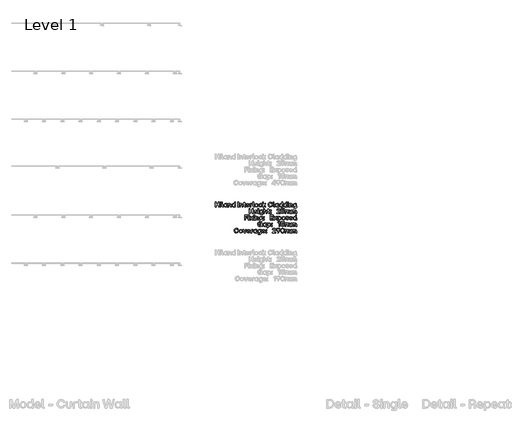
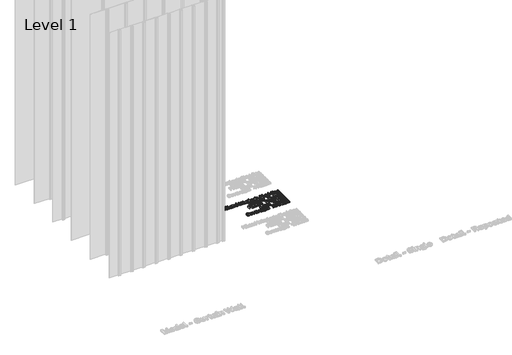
# One storey, part 54 of 64: 1 proxy.
"""IFC4 building model written with IfcOpenShell, lengths in millimetres."""

from ifc_helpers import new_model, si_unit, origin, origin_with_axes, place, context, project, spatial, polyline, outline, extrude, element, save

model = new_model("IFC4")

# Units and contexts
model_context = context("Model", 3, world=origin())
ifc_project = project(units=[si_unit("LENGTHUNIT", "METRE", prefix="MILLI")], contexts=[model_context])

# Site, building, storey
site = spatial("IfcSite", under=ifc_project)
building = spatial("IfcBuilding", under=site)
storey = spatial("IfcBuildingStorey", under=building, Name="Level 1", Elevation=0.0)

# Proxy
placement = place(None, origin())
element("IfcBuildingElementProxy", 1, Name="50mm", ObjectType="50mm", at=placement, inside=storey, context=model_context, shape_type="SweptSolid", body=[
    extrude(outline(polyline([(2183.5639115, 596.9748178), (2182.8665797, 618.9128767), (2159.0178316, 618.9128767), (2159.0178316, 597.6721497), (2151.5145413, 596.9748178), (2150.7893162, 646.2482839), (2158.2786599, 646.973509), (2159.0178316, 625.8861949), (2182.8665797, 625.8861949), (2182.8665797, 646.2482839), (2190.3559234, 646.973509), (2191.0532552, 597.6721497), (2183.5639115, 596.9748178)])), origin_with_axes(), (0.0, 0.0, 1.0), 20.0),
    extrude(outline(polyline([(2201.1506198, 596.9748178), (2200.4253948, 632.6782068), (2207.6358057, 633.3755386), (2208.3331375, 597.6721497), (2201.1506198, 596.9748178)])), origin_with_axes(), (0.0, 0.0, 1.0), 20.0),
    extrude(outline(polyline([(2200.2161952, 640.0420307), (2199.8675293, 648.0892399), (2208.2634043, 648.8284116), (2209.0025761, 640.3906966), (2200.2161952, 640.0420307)])), origin_with_axes(), (0.0, 0.0, 1.0), 20.0),
    extrude(outline(polyline([(2227.7329086, 596.9748178), (2220.0343654, 599.6246787), (2217.3845045, 607.3371686), (2217.3845045, 647.6708408), (2224.5949154, 648.4100125), (2225.2922473, 603.2508042), (2231.9587394, 603.2508042), (2232.6560712, 597.6721497), (2227.7329086, 596.9748178)])), origin_with_axes(), (0.0, 0.0, 1.0), 20.0),
    extrude(outline(polyline([(2252.8229073, 596.5564188), (2241.0519463, 601.5981278), (2236.6727025, 615.105445), (2241.0519463, 628.7452553), (2252.8229073, 633.8357776), (2259.4405862, 632.2319144), (2264.4265087, 627.838724), (2264.7472813, 632.6782068), (2271.929799, 633.3755386), (2272.6550241, 603.2508042), (2276.6019222, 603.2508042), (2277.299254, 597.6721497), (2271.3022004, 596.9748178), (2266.6475105, 598.282315), (2265.0959472, 602.2048065), (2259.7404389, 598.1602819), (2252.8229073, 596.5564188)]), holes=[polyline([(2244.7338583, 615.105445), (2247.4883189, 606.2144644), (2255.0125292, 602.9718715), (2262.3763532, 606.2005178), (2265.0262141, 615.105445), (2262.3554332, 624.1010254), (2255.0125292, 627.378485), (2247.4883189, 624.1010254), (2244.7338583, 615.105445)])]), origin_with_axes(), (0.0, 0.0, 1.0), 20.0),
    extrude(outline(polyline([(2284.160999, 596.9748178), (2283.435774, 632.6782068), (2290.297519, 633.3755386), (2290.9948508, 627.838724), (2296.1585929, 632.3365142), (2302.7797585, 633.8357776), (2312.3401777, 629.6517867), (2315.6525038, 617.40664), (2315.6525038, 597.6721497), (2308.4281462, 596.9748178), (2307.7029211, 617.40664), (2305.750392, 624.7844106), (2299.5790055, 627.0995522), (2293.3518324, 624.749544), (2291.3435167, 617.40664), (2291.3435167, 597.6721497), (2284.160999, 596.9748178)])), origin_with_axes(), (0.0, 0.0, 1.0), 20.0),
    extrude(outline(polyline([(2338.5110407, 596.5564188), (2326.7400796, 601.5981278), (2322.3608359, 615.105445), (2326.7400796, 628.7452553), (2338.5110407, 633.8357776), (2345.1287196, 632.2319144), (2350.1146421, 627.838724), (2350.4354147, 647.6708408), (2357.6179324, 648.4100125), (2358.3431575, 597.6721497), (2351.4814124, 596.9748178), (2350.7840806, 602.4837392), (2345.4285723, 598.1602819), (2338.5110407, 596.5564188)]), holes=[polyline([(2330.4219916, 615.105445), (2333.1764523, 606.2144644), (2340.7006626, 602.9718715), (2348.0644865, 606.2005178), (2350.7143474, 615.105445), (2348.0435666, 624.1010254), (2340.7006626, 627.378485), (2333.1764523, 624.1010254), (2330.4219916, 615.105445)])]), origin_with_axes(), (0.0, 0.0, 1.0), 20.0),
    extrude(outline(polyline([(2385.7204045, 596.9748178), (2385.0230727, 646.2482839), (2392.526363, 646.973509), (2393.2236949, 597.6721497), (2385.7204045, 596.9748178)])), origin_with_axes(), (0.0, 0.0, 1.0), 20.0),
    extrude(outline(polyline([(2403.7673519, 596.9748178), (2403.0421268, 632.6782068), (2409.9038719, 633.3755386), (2410.6012037, 627.838724), (2415.7649458, 632.3365142), (2422.3861113, 633.8357776), (2431.9465305, 629.6517867), (2435.2588566, 617.40664), (2435.2588566, 597.6721497), (2428.034499, 596.9748178), (2427.3092739, 617.40664), (2425.3567449, 624.7844106), (2419.1853583, 627.0995522), (2412.9581852, 624.749544), (2410.9498696, 617.40664), (2410.9498696, 597.6721497), (2403.7673519, 596.9748178)])), origin_with_axes(), (0.0, 0.0, 1.0), 20.0),
    extrude(outline(polyline([(2458.5357926, 596.9748178), (2450.8233027, 599.6246787), (2448.1734418, 607.3371686), (2448.1734418, 627.0995522), (2441.9671887, 627.0995522), (2441.2419636, 632.6782068), (2448.1734418, 633.3755386), (2448.1734418, 643.3892234), (2455.3977994, 644.1144485), (2456.0951313, 633.3755386), (2464.8815121, 633.3755386), (2465.6067372, 627.838724), (2456.0951313, 627.0995522), (2456.0951313, 603.2508042), (2464.8815121, 603.2508042), (2465.6067372, 597.6721497), (2458.5357926, 596.9748178)])), origin_with_axes(), (0.0, 0.0, 1.0), 20.0),
    extrude(outline(polyline([(2488.9394597, 596.5564188), (2475.5367422, 601.5981278), (2470.5298998, 615.105445), (2475.5158223, 628.759202), (2488.9394597, 633.8357776), (2501.219473, 628.8289351), (2505.7172632, 615.1751782), (2505.7172632, 613.264489), (2478.6607888, 612.5253173), (2481.7290488, 605.482266), (2488.9394597, 602.9718715), (2494.7273138, 604.2479887), (2497.7258406, 607.8253009), (2504.8107318, 608.4110596), (2500.1525553, 599.6455987), (2488.9394597, 596.5564188)]), holes=[polyline([(2478.730522, 618.3131714), (2497.9350401, 618.3131714), (2495.2921526, 624.9587436), (2488.9394597, 627.378485), (2481.8475952, 625.07729), (2478.730522, 618.3131714)])]), origin_with_axes(), (0.0, 0.0, 1.0), 20.0),
    extrude(outline(polyline([(2513.1787136, 596.9748178), (2512.4813818, 623.0550277), (2515.1312427, 630.7465976), (2522.8297859, 633.3755386), (2532.9829371, 633.3755386), (2533.6802689, 627.378485), (2520.3891246, 626.6811531), (2520.3891246, 597.6721497), (2513.1787136, 596.9748178)])), origin_with_axes(), (0.0, 0.0, 1.0), 20.0),
    extrude(outline(polyline([(2550.8485782, 596.9748178), (2543.150035, 599.6246787), (2540.5001741, 607.3371686), (2540.5001741, 647.6708408), (2547.7105851, 648.4100125), (2548.4079169, 603.2508042), (2555.074409, 603.2508042), (2555.7717408, 597.6721497), (2550.8485782, 596.9748178)])), origin_with_axes(), (0.0, 0.0, 1.0), 20.0),
    extrude(outline(polyline([(2577.9887324, 596.5564188), (2564.8300811, 601.6818076), (2559.7883721, 615.105445), (2564.8440277, 628.6406555), (2577.9887324, 633.8357776), (2591.2589569, 628.6406555), (2596.3285592, 615.105445), (2591.2589569, 601.6818076), (2577.9887324, 596.5564188)]), holes=[polyline([(2567.8495279, 615.105445), (2570.548202, 606.2005178), (2577.9887324, 602.9718715), (2585.5268894, 606.2144644), (2588.28135, 615.105445), (2585.540836, 624.1010254), (2577.9887324, 627.378485), (2570.548202, 624.1010254), (2567.8495279, 615.105445)])]), origin_with_axes(), (0.0, 0.0, 1.0), 20.0),
    extrude(outline(polyline([(2620.0796808, 596.5564188), (2606.7466965, 601.5981278), (2601.7398541, 615.105445), (2606.8164297, 628.6406555), (2620.0796808, 633.8357776), (2631.15331, 630.3979317), (2636.369352, 621.3116982), (2629.3541939, 620.5446332), (2625.783855, 625.844355), (2620.0796808, 627.378485), (2612.5206039, 624.1010254), (2609.8010098, 615.105445), (2612.5345505, 606.1795978), (2620.0796808, 602.9718715), (2625.958188, 604.4362683), (2628.9357948, 609.1781246), (2636.0206861, 609.8475631), (2631.3625095, 599.9942646), (2620.0796808, 596.5564188)])), origin_with_axes(), (0.0, 0.0, 1.0), 20.0),
    extrude(outline(polyline([(2644.765227, 596.9748178), (2644.0400019, 647.6708408), (2651.2504129, 648.4100125), (2651.9477447, 617.6158396), (2667.1914182, 633.0268727), (2675.0991609, 633.3755386), (2662.3798286, 618.4526377), (2676.4659313, 597.8534559), (2668.8231746, 596.9748178), (2657.1080001, 613.264489), (2651.9477447, 608.2018601), (2651.9477447, 597.6721497), (2644.765227, 596.9748178)])), origin_with_axes(), (0.0, 0.0, 1.0), 20.0),
    extrude(outline(polyline([(2722.7548172, 596.5564188), (2712.7481056, 598.2701117), (2705.0425891, 603.4111905), (2700.1263998, 611.4810629), (2698.48767, 621.9811367), (2700.1403464, 632.3051342), (2705.0983756, 640.4046433), (2712.8178388, 645.6450918), (2722.7548172, 647.391908), (2736.9315729, 642.7755714), (2743.8839711, 630.4885849), (2736.5619871, 629.6796799), (2731.398245, 637.8698421), (2722.7548172, 640.3906966), (2711.0954292, 635.4535874), (2706.8556518, 621.9811367), (2711.0745093, 608.397113), (2722.7548172, 603.5297369), (2731.5690913, 606.0157248), (2736.2551611, 613.4736886), (2743.6747716, 614.1291805), (2737.2105057, 601.1588087), (2722.7548172, 596.5564188)])), origin_with_axes(), (0.0, 0.0, 1.0), 20.0),
    extrude(outline(polyline([(2762.3911575, 596.9748178), (2754.6926143, 599.6246787), (2752.0427534, 607.3371686), (2752.0427534, 647.6708408), (2759.2531643, 648.4100125), (2759.9504961, 603.2508042), (2766.6169883, 603.2508042), (2767.3143201, 597.6721497), (2762.3911575, 596.9748178)])), origin_with_axes(), (0.0, 0.0, 1.0), 20.0),
    extrude(outline(polyline([(2787.4811562, 596.5564188), (2775.7101952, 601.5981278), (2771.3309514, 615.105445), (2775.7101952, 628.7452553), (2787.4811562, 633.8357776), (2794.0988351, 632.2319144), (2799.0847576, 627.838724), (2799.4055302, 632.6782068), (2806.5880479, 633.3755386), (2807.313273, 603.2508042), (2811.2601711, 603.2508042), (2811.9575029, 597.6721497), (2805.9604493, 596.9748178), (2801.3057594, 598.282315), (2799.7541961, 602.2048065), (2794.3986878, 598.1602819), (2787.4811562, 596.5564188)]), holes=[polyline([(2779.3921071, 615.105445), (2782.1465678, 606.2144644), (2789.6707781, 602.9718715), (2797.034602, 606.2005178), (2799.6844629, 615.105445), (2797.0136821, 624.1010254), (2789.6707781, 627.378485), (2782.1465678, 624.1010254), (2779.3921071, 615.105445)])]), origin_with_axes(), (0.0, 0.0, 1.0), 20.0),
    extrude(outline(polyline([(2832.1103923, 596.5564188), (2820.3394313, 601.5981278), (2815.9601875, 615.105445), (2820.3394313, 628.7452553), (2832.1103923, 633.8357776), (2838.7280712, 632.2319144), (2843.7139937, 627.838724), (2844.0347663, 647.6708408), (2851.217284, 648.4100125), (2851.9425091, 597.6721497), (2845.0807641, 596.9748178), (2844.3834323, 602.4837392), (2839.0279239, 598.1602819), (2832.1103923, 596.5564188)]), holes=[polyline([(2824.0213433, 615.105445), (2826.7758039, 606.2144644), (2834.3000142, 602.9718715), (2841.6638382, 606.2005178), (2844.3136991, 615.105445), (2841.6429182, 624.1010254), (2834.3000142, 627.378485), (2826.7758039, 624.1010254), (2824.0213433, 615.105445)])]), origin_with_axes(), (0.0, 0.0, 1.0), 20.0),
    extrude(outline(polyline([(2874.954459, 596.5564188), (2863.183498, 601.5981278), (2858.8042542, 615.105445), (2863.183498, 628.7452553), (2874.954459, 633.8357776), (2881.5721379, 632.2319144), (2886.5580604, 627.838724), (2886.878833, 647.6708408), (2894.0613507, 648.4100125), (2894.7865758, 597.6721497), (2887.9248308, 596.9748178), (2887.2274989, 602.4837392), (2881.8719906, 598.1602819), (2874.954459, 596.5564188)]), holes=[polyline([(2866.86541, 615.105445), (2869.6198706, 606.2144644), (2877.1440809, 602.9718715), (2884.5079049, 606.2005178), (2887.1577658, 615.105445), (2884.4869849, 624.1010254), (2877.1440809, 627.378485), (2869.6198706, 624.1010254), (2866.86541, 615.105445)])]), origin_with_axes(), (0.0, 0.0, 1.0), 20.0),
    extrude(outline(polyline([(2904.5073813, 596.9748178), (2903.7821562, 632.6782068), (2910.9925672, 633.3755386), (2911.689899, 597.6721497), (2904.5073813, 596.9748178)])), origin_with_axes(), (0.0, 0.0, 1.0), 20.0),
    extrude(outline(polyline([(2903.5729567, 640.0420307), (2903.2242908, 648.0892399), (2911.6201658, 648.8284116), (2912.3593375, 640.3906966), (2903.5729567, 640.0420307)])), origin_with_axes(), (0.0, 0.0, 1.0), 20.0),
    extrude(outline(polyline([(2921.466491, 596.9748178), (2920.741266, 632.6782068), (2927.603011, 633.3755386), (2928.3003428, 627.838724), (2933.4640849, 632.3365142), (2940.0852505, 633.8357776), (2949.6456697, 629.6517867), (2952.9579958, 617.40664), (2952.9579958, 597.6721497), (2945.7336382, 596.9748178), (2945.0084131, 617.40664), (2943.055884, 624.7844106), (2936.8844975, 627.0995522), (2930.6573244, 624.749544), (2928.6490087, 617.40664), (2928.6490087, 597.6721497), (2921.466491, 596.9748178)])), origin_with_axes(), (0.0, 0.0, 1.0), 20.0),
    extrude(outline(polyline([(2967.2393514, 583.4186874), (2966.5001796, 588.9973419), (2987.7409067, 589.6946737), (2987.7409067, 602.5534724), (2982.4342116, 598.1602819), (2975.8165327, 596.5564188), (2964.0455716, 601.6329944), (2959.6663278, 615.2449114), (2964.0455716, 628.7801219), (2975.8165327, 633.8357776), (2982.7340643, 632.2319144), (2987.8106399, 627.9084571), (2988.0895726, 632.6782068), (2994.9234244, 633.3755386), (2995.6486495, 593.4184256), (2993.0685218, 585.9778951), (2985.6489113, 583.4186874), (2967.2393514, 583.4186874)]), holes=[polyline([(2967.7274836, 615.2449114), (2970.4819443, 606.249331), (2978.0061546, 602.9718715), (2985.3490586, 606.249331), (2988.0198394, 615.2449114), (2985.3699785, 624.156812), (2978.0061546, 627.378485), (2970.4819443, 624.135892), (2967.7274836, 615.2449114)])]), origin_with_axes(), (0.0, 0.0, 1.0), 20.0),
    extrude(outline(polyline([(2536.1348769, 529.1231234), (2535.4375451, 551.0611823), (2511.5887971, 551.0611823), (2511.5887971, 529.8204552), (2504.0855067, 529.1231234), (2503.3602816, 578.3965894), (2510.8496253, 579.1218145), (2511.5887971, 558.0345004), (2535.4375451, 558.0345004), (2535.4375451, 578.3965894), (2542.9268888, 579.1218145), (2543.6242206, 529.8204552), (2536.1348769, 529.1231234)])), origin_with_axes(), (0.0, 0.0, 1.0), 20.0),
    extrude(outline(polyline([(2569.2720848, 528.7047243), (2555.8693673, 533.7464333), (2550.8625249, 547.2537506), (2555.8484473, 560.9075075), (2569.2720848, 565.9840831), (2581.552098, 560.9772407), (2586.0498882, 547.3234838), (2586.0498882, 545.4127946), (2558.9934138, 544.6736229), (2562.0616738, 537.6305715), (2569.2720848, 535.120177), (2575.0599388, 536.3962942), (2578.0584656, 539.9736064), (2585.1433569, 540.5593652), (2580.4851803, 531.7939042), (2569.2720848, 528.7047243)]), holes=[polyline([(2559.063147, 550.4614769), (2578.2676652, 550.4614769), (2575.6247776, 557.1070491), (2569.2720848, 559.5267905), (2562.1802202, 557.2255955), (2559.063147, 550.4614769)])]), origin_with_axes(), (0.0, 0.0, 1.0), 20.0),
    extrude(outline(polyline([(2593.8878978, 529.1231234), (2593.1626727, 564.8265123), (2600.3730837, 565.5238441), (2601.0704155, 529.8204552), (2593.8878978, 529.1231234)])), origin_with_axes(), (0.0, 0.0, 1.0), 20.0),
    extrude(outline(polyline([(2592.9534732, 572.1903363), (2592.6048073, 580.2375454), (2601.0006823, 580.9767171), (2601.7398541, 572.5390022), (2592.9534732, 572.1903363)])), origin_with_axes(), (0.0, 0.0, 1.0), 20.0),
    extrude(outline(polyline([(2615.5609706, 515.5669929), (2614.8217989, 521.1456474), (2636.062526, 521.8429792), (2636.062526, 534.7017779), (2630.7558309, 530.3085875), (2624.1381519, 528.7047243), (2612.3671909, 533.7812999), (2607.9879471, 547.3932169), (2612.3671909, 560.9284275), (2624.1381519, 565.9840831), (2631.0556835, 564.3802199), (2636.1322591, 560.0567627), (2636.4111919, 564.8265123), (2643.2450437, 565.5238441), (2643.9702687, 525.5667311), (2641.390141, 518.1262007), (2633.9705305, 515.5669929), (2615.5609706, 515.5669929)]), holes=[polyline([(2616.0491029, 547.3932169), (2618.8035636, 538.3976365), (2626.3277738, 535.120177), (2633.6706778, 538.3976365), (2636.3414587, 547.3932169), (2633.6915978, 556.3051175), (2626.3277738, 559.5267905), (2618.8035636, 556.2841976), (2616.0491029, 547.3932169)])]), origin_with_axes(), (0.0, 0.0, 1.0), 20.0),
    extrude(outline(polyline([(2653.6910742, 529.1231234), (2652.9658492, 579.8191463), (2660.1762601, 580.558318), (2660.8735919, 560.2659622), (2665.9606275, 564.5545529), (2672.3098337, 565.9840831), (2681.8702529, 561.8000922), (2685.182579, 549.5549456), (2685.182579, 529.8204552), (2677.9582214, 529.1231234), (2677.2329963, 549.5549456), (2675.2804672, 556.9327162), (2669.1090807, 559.2478578), (2662.8819076, 556.8978496), (2660.8735919, 549.5549456), (2660.8735919, 529.8204552), (2653.6910742, 529.1231234)])), origin_with_axes(), (0.0, 0.0, 1.0), 20.0),
    extrude(outline(polyline([(2708.459515, 529.1231234), (2700.7470251, 531.7729843), (2698.0971642, 539.4854742), (2698.0971642, 559.2478578), (2691.890911, 559.2478578), (2691.165686, 564.8265123), (2698.0971642, 565.5238441), (2698.0971642, 575.537529), (2705.3215218, 576.2627541), (2706.0188536, 565.5238441), (2714.8052345, 565.5238441), (2715.5304596, 559.9870295), (2706.0188536, 559.2478578), (2706.0188536, 535.3991097), (2714.8052345, 535.3991097), (2715.5304596, 529.8204552), (2708.459515, 529.1231234)])), origin_with_axes(), (0.0, 0.0, 1.0), 20.0),
    extrude(outline(polyline([(2722.9361234, 552.7626719), (2722.2387916, 562.3858509), (2731.7225043, 563.1250227), (2732.4477294, 553.4600037), (2722.9361234, 552.7626719)])), origin_with_axes(), (0.0, 0.0, 1.0), 20.0),
    extrude(outline(polyline([(2722.5874575, 529.4717893), (2722.2387916, 538.7463024), (2731.7225043, 539.4854742), (2732.4477294, 529.8204552), (2722.5874575, 529.4717893)])), origin_with_axes(), (0.0, 0.0, 1.0), 20.0),
    extrude(outline(polyline([(2790.4238964, 529.1231234), (2789.6986714, 533.9068196), (2807.0622335, 549.9036115), (2814.2098846, 557.8183276), (2816.1972803, 565.105445), (2814.216858, 570.7852127), (2808.2755909, 572.6784685), (2801.4068725, 570.6004197), (2798.5547854, 564.031554), (2791.1212283, 563.3342222), (2795.7096716, 575.5305557), (2808.2755909, 579.5402136), (2820.1023385, 575.670022), (2824.4257957, 565.105445), (2821.7410682, 555.328853), (2812.5711549, 544.9246623), (2803.1153355, 536.4172142), (2825.8483526, 536.1382814), (2826.5456844, 529.8204552), (2790.4238964, 529.1231234)])), origin_with_axes(), (0.0, 0.0, 1.0), 20.0),
    extrude(outline(polyline([(2851.8030428, 528.7047243), (2838.6025515, 532.4005829), (2832.7937775, 543.1115996), (2840.1576015, 543.9065579), (2844.365999, 537.4736719), (2851.8030428, 535.5385761), (2859.2087066, 538.2233036), (2861.802781, 545.8311937), (2859.2226533, 553.1322578), (2851.6635764, 555.6217323), (2841.3012256, 551.6887809), (2836.4617428, 551.9677136), (2837.5077406, 578.3965894), (2867.1443427, 579.1218145), (2867.8695678, 572.8179349), (2844.1602861, 572.1206031), (2843.3653278, 559.4570573), (2848.5395299, 561.6536525), (2854.2437041, 562.4555841), (2865.7984923, 558.0275271), (2870.0034031, 545.8311937), (2865.1918136, 533.2234345), (2851.8030428, 528.7047243)])), origin_with_axes(), (0.0, 0.0, 1.0), 20.0),
    extrude(outline(polyline([(2878.6224244, 529.1231234), (2877.8971993, 564.8265123), (2884.7589443, 565.5238441), (2885.4562761, 559.9870295), (2890.4421986, 564.4848197), (2896.8925179, 565.9840831), (2903.1789642, 564.4848197), (2907.394335, 559.9870295), (2913.2170557, 564.4290332), (2920.4623332, 565.9840831), (2929.7368464, 561.8140389), (2932.9445727, 549.5549456), (2932.9445727, 529.8204552), (2925.7341617, 529.1231234), (2925.0368299, 549.5549456), (2923.154034, 556.9327162), (2917.1848737, 559.2478578), (2911.2784732, 556.8978496), (2909.3747574, 549.5549456), (2909.3747574, 529.8204552), (2902.1643464, 529.1231234), (2901.4670146, 549.5549456), (2899.5981653, 556.9327162), (2893.6847915, 559.2478578), (2887.7086579, 556.8978496), (2885.804942, 549.5549456), (2885.804942, 529.8204552), (2878.6224244, 529.1231234)])), origin_with_axes(), (0.0, 0.0, 1.0), 20.0),
    extrude(outline(polyline([(2941.9959397, 529.1231234), (2941.2707146, 564.8265123), (2948.1324596, 565.5238441), (2948.8297914, 559.9870295), (2953.8157139, 564.4848197), (2960.2660332, 565.9840831), (2966.5524795, 564.4848197), (2970.7678503, 559.9870295), (2976.590571, 564.4290332), (2983.8358485, 565.9840831), (2993.1103617, 561.8140389), (2996.318088, 549.5549456), (2996.318088, 529.8204552), (2989.1076771, 529.1231234), (2988.4103452, 549.5549456), (2986.5275493, 556.9327162), (2980.558389, 559.2478578), (2974.6519885, 556.8978496), (2972.7482727, 549.5549456), (2972.7482727, 529.8204552), (2965.5378617, 529.1231234), (2964.8405299, 549.5549456), (2962.9716806, 556.9327162), (2957.0583069, 559.2478578), (2951.0821732, 556.8978496), (2949.1784574, 549.5549456), (2949.1784574, 529.8204552), (2941.9959397, 529.1231234)])), origin_with_axes(), (0.0, 0.0, 1.0), 20.0),
    extrude(outline(polyline([(2454.993347, 461.2714289), (2454.2681219, 510.544895), (2485.8572531, 511.27012), (2486.5545849, 504.9662404), (2462.4966373, 504.2689086), (2462.4966373, 489.2065414), (2484.4207496, 489.2065414), (2485.1180814, 482.9305551), (2462.4966373, 482.1913834), (2462.4966373, 461.9687608), (2454.993347, 461.2714289)])), origin_with_axes(), (0.0, 0.0, 1.0), 20.0),
    extrude(outline(polyline([(2494.8109936, 461.2714289), (2494.0857685, 496.9748178), (2501.2961795, 497.6721497), (2501.9935113, 461.9687608), (2494.8109936, 461.2714289)])), origin_with_axes(), (0.0, 0.0, 1.0), 20.0),
    extrude(outline(polyline([(2493.876569, 504.3386418), (2493.5279031, 512.3858509), (2501.9237781, 513.1250227), (2502.6629498, 504.6873077), (2493.876569, 504.3386418)])), origin_with_axes(), (0.0, 0.0, 1.0), 20.0),
    extrude(outline(polyline([(2508.9110429, 461.2714289), (2521.6722151, 479.750722), (2509.4689083, 496.8353515), (2517.4603309, 497.6721497), (2526.2467118, 485.6780424), (2534.4752272, 497.2537506), (2542.5921695, 497.6721497), (2530.9885681, 480.5596269), (2544.0286731, 462.150067), (2536.0372505, 461.2714289), (2526.316445, 474.7020397), (2517.0419319, 461.689828), (2508.9110429, 461.2714289)])), origin_with_axes(), (0.0, 0.0, 1.0), 20.0),
    extrude(outline(polyline([(2551.0438311, 461.2714289), (2550.318606, 496.9748178), (2557.529017, 497.6721497), (2558.2263488, 461.9687608), (2551.0438311, 461.2714289)])), origin_with_axes(), (0.0, 0.0, 1.0), 20.0),
    extrude(outline(polyline([(2550.1094065, 504.3386418), (2549.7607406, 512.3858509), (2558.1566156, 513.1250227), (2558.8957874, 504.6873077), (2550.1094065, 504.3386418)])), origin_with_axes(), (0.0, 0.0, 1.0), 20.0),
    extrude(outline(polyline([(2568.0029409, 461.2714289), (2567.2777158, 496.9748178), (2574.1394608, 497.6721497), (2574.8367926, 492.1353351), (2580.0005347, 496.6331253), (2586.6217003, 498.1323887), (2596.1821195, 493.9483978), (2599.4944456, 481.7032511), (2599.4944456, 461.9687608), (2592.270088, 461.2714289), (2591.5448629, 481.7032511), (2589.5923338, 489.0810217), (2583.4209473, 491.3961633), (2577.1937742, 489.0461551), (2575.1854586, 481.7032511), (2575.1854586, 461.9687608), (2568.0029409, 461.2714289)])), origin_with_axes(), (0.0, 0.0, 1.0), 20.0),
    extrude(outline(polyline([(2613.7758012, 447.7152985), (2613.0366294, 453.293953), (2634.2773565, 453.9912848), (2634.2773565, 466.8500835), (2628.9706614, 462.456893), (2622.3529825, 460.8530298), (2610.5820215, 465.9296055), (2606.2027777, 479.5415225), (2610.5820215, 493.076733), (2622.3529825, 498.1323887), (2629.2705141, 496.5285255), (2634.3470897, 492.2050682), (2634.6260224, 496.9748178), (2641.4598742, 497.6721497), (2642.1850993, 457.7150367), (2639.6049716, 450.2745062), (2632.1853611, 447.7152985), (2613.7758012, 447.7152985)]), holes=[polyline([(2614.2639334, 479.5415225), (2617.0183941, 470.5459421), (2624.5426044, 467.2684825), (2631.8855084, 470.5459421), (2634.5562892, 479.5415225), (2631.9064284, 488.4534231), (2624.5426044, 491.6750961), (2617.0183941, 488.4325031), (2614.2639334, 479.5415225)])]), origin_with_axes(), (0.0, 0.0, 1.0), 20.0),
    extrude(outline(polyline([(2651.5293456, 484.9109775), (2650.8320138, 494.5341565), (2660.3157265, 495.2733282), (2661.0409516, 485.6083093), (2651.5293456, 484.9109775)])), origin_with_axes(), (0.0, 0.0, 1.0), 20.0),
    extrude(outline(polyline([(2651.1806797, 461.6200948), (2650.8320138, 470.894608), (2660.3157265, 471.6337797), (2661.0409516, 461.9687608), (2651.1806797, 461.6200948)])), origin_with_axes(), (0.0, 0.0, 1.0), 20.0),
    extrude(outline(polyline([(2721.8761791, 461.2714289), (2721.150954, 510.544895), (2753.437417, 511.27012), (2754.1626421, 504.9662404), (2729.3794694, 504.2689086), (2729.3794694, 489.9038732), (2752.0009135, 489.9038732), (2752.7400852, 483.6278869), (2729.3794694, 482.9305551), (2729.3794694, 468.286587), (2754.1626421, 468.286587), (2754.8599739, 461.9687608), (2721.8761791, 461.2714289)])), origin_with_axes(), (0.0, 0.0, 1.0), 20.0),
    extrude(outline(polyline([(2760.6199347, 461.2714289), (2773.3811069, 479.750722), (2761.1778001, 496.8353515), (2769.1692227, 497.6721497), (2777.9556036, 485.6780424), (2786.184119, 497.2537506), (2794.3010613, 497.6721497), (2782.6974599, 480.5596269), (2795.7375649, 462.150067), (2787.7461423, 461.2714289), (2778.0253368, 474.7020397), (2768.7508236, 461.689828), (2760.6199347, 461.2714289)])), origin_with_axes(), (0.0, 0.0, 1.0), 20.0),
    extrude(outline(polyline([(2802.7527229, 447.7152985), (2802.0274978, 496.9748178), (2808.8892429, 497.6721497), (2809.5865747, 492.2050682), (2814.942083, 496.5285255), (2821.8596146, 498.1323887), (2833.6305757, 493.076733), (2838.0098195, 479.5415225), (2833.6305757, 465.9296055), (2821.8596146, 460.8530298), (2815.2419357, 462.456893), (2810.2560132, 466.8500835), (2809.9352406, 448.4126303), (2802.7527229, 447.7152985)]), holes=[polyline([(2809.6563079, 479.5415225), (2812.3270887, 470.5459421), (2819.6699927, 467.2684825), (2827.194203, 470.5459421), (2829.9486637, 479.5415225), (2827.194203, 488.4325031), (2819.6699927, 491.6750961), (2812.3061688, 488.4534231), (2809.6563079, 479.5415225)])]), origin_with_axes(), (0.0, 0.0, 1.0), 20.0),
    extrude(outline(polyline([(2860.9380895, 460.8530298), (2847.7794382, 465.9784187), (2842.7377292, 479.4020561), (2847.7933848, 492.9372666), (2860.9380895, 498.1323887), (2874.208314, 492.9372666), (2879.2779163, 479.4020561), (2874.208314, 465.9784187), (2860.9380895, 460.8530298)]), holes=[polyline([(2850.798885, 479.4020561), (2853.4975591, 470.4971288), (2860.9380895, 467.2684825), (2868.4762465, 470.5110755), (2871.2307071, 479.4020561), (2868.4901931, 488.3976365), (2860.9380895, 491.6750961), (2853.4975591, 488.3976365), (2850.798885, 479.4020561)])]), origin_with_axes(), (0.0, 0.0, 1.0), 20.0),
    extrude(outline(polyline([(2900.3094438, 460.8530298), (2889.5775072, 463.8027434), (2885.1076102, 472.2613783), (2892.0530351, 473.0563366), (2895.1352417, 468.2447471), (2900.3094438, 466.9895498), (2904.7723674, 468.1750139), (2906.4459638, 471.354847), (2905.246553, 474.2139074), (2901.1880819, 475.7061975), (2896.0975596, 476.6127289), (2888.3711231, 480.1551745), (2885.8746752, 487.2540123), (2889.5356673, 495.1687284), (2899.4029124, 498.1323887), (2909.0958246, 495.377928), (2913.3216554, 487.5608383), (2906.3762306, 486.7658801), (2903.6287432, 490.928951), (2899.4029124, 491.9958687), (2895.1491884, 490.8940844), (2893.6847915, 487.7003047), (2894.7307893, 484.9318974), (2898.538221, 483.4186874), (2903.9774091, 482.4005829), (2911.9897517, 478.9139238), (2914.2560801, 471.7732461), (2910.6299546, 463.6772237), (2900.3094438, 460.8530298)])), origin_with_axes(), (0.0, 0.0, 1.0), 20.0),
    extrude(outline(polyline([(2937.9095752, 460.8530298), (2924.5068578, 465.8947389), (2919.5000153, 479.4020561), (2924.4859378, 493.055813), (2937.9095752, 498.1323887), (2950.1895885, 493.1255462), (2954.6873787, 479.4717893), (2954.6873787, 477.5611001), (2927.6309043, 476.8219284), (2930.6991643, 469.7788771), (2937.9095752, 467.2684825), (2943.6974293, 468.5445998), (2946.6959561, 472.121912), (2953.7808473, 472.7076707), (2949.1226708, 463.9422098), (2937.9095752, 460.8530298)]), holes=[polyline([(2927.7006375, 482.6097825), (2946.9051556, 482.6097825), (2944.2622681, 489.2553547), (2937.9095752, 491.6750961), (2930.8177107, 489.3739011), (2927.7006375, 482.6097825)])]), origin_with_axes(), (0.0, 0.0, 1.0), 20.0),
    extrude(outline(polyline([(2975.8165327, 460.8530298), (2964.0455716, 465.8947389), (2959.6663278, 479.4020561), (2964.0455716, 493.0418664), (2975.8165327, 498.1323887), (2982.4342116, 496.5285255), (2987.4201341, 492.1353351), (2987.7409067, 511.9674519), (2994.9234244, 512.7066236), (2995.6486495, 461.9687608), (2988.7869044, 461.2714289), (2988.0895726, 466.7803503), (2982.7340643, 462.456893), (2975.8165327, 460.8530298)]), holes=[polyline([(2967.7274836, 479.4020561), (2970.4819443, 470.5110755), (2978.0061546, 467.2684825), (2985.3699785, 470.4971288), (2988.0198394, 479.4020561), (2985.3490586, 488.3976365), (2978.0061546, 491.6750961), (2970.4819443, 488.3976365), (2967.7274836, 479.4020561)])]), origin_with_axes(), (0.0, 0.0, 1.0), 20.0),
    extrude(outline(polyline([(2613.9152675, 393.0013354), (2604.231072, 394.7097983), (2596.7957715, 399.8351872), (2592.0626318, 407.8998296), (2590.4849186, 418.4260534), (2592.1986115, 428.7936341), (2597.3396903, 436.8844265), (2605.304963, 442.0987251), (2615.4912374, 443.8368247), (2630.0933656, 439.2204881), (2637.24799, 426.9335015), (2629.8841661, 426.1245966), (2624.5495777, 434.2903521), (2615.4912374, 436.8356133), (2603.315824, 431.919424), (2598.8529003, 418.4260534), (2603.0578112, 404.8559762), (2614.7520657, 399.9746535), (2624.884297, 403.4613126), (2629.6052334, 412.9868652), (2614.1244671, 412.9868652), (2613.399242, 419.2628515), (2636.6203914, 419.9880766), (2637.3177232, 394.1170663), (2630.9720037, 393.4197345), (2630.2746719, 400.7138253), (2623.6779129, 395.1142508), (2613.9152675, 393.0013354)])), origin_with_axes(), (0.0, 0.0, 1.0), 20.0),
    extrude(outline(polyline([(2660.7341256, 393.0013354), (2648.9631645, 398.0430444), (2644.5839207, 411.5503617), (2648.9631645, 425.190172), (2660.7341256, 430.2806942), (2667.3518045, 428.676831), (2672.337727, 424.2836406), (2672.6584996, 429.1231234), (2679.8410173, 429.8204552), (2680.5662424, 399.6957208), (2684.5131404, 399.6957208), (2685.2104723, 394.1170663), (2679.2134187, 393.4197345), (2674.5587288, 394.7272316), (2673.0071655, 398.6497231), (2667.6516572, 394.6051986), (2660.7341256, 393.0013354)]), holes=[polyline([(2652.6450765, 411.5503617), (2655.3995372, 402.659381), (2662.9237475, 399.4167881), (2670.2875714, 402.6454344), (2672.9374323, 411.5503617), (2670.2666515, 420.5459421), (2662.9237475, 423.8234016), (2655.3995372, 420.5459421), (2652.6450765, 411.5503617)])]), origin_with_axes(), (0.0, 0.0, 1.0), 20.0),
    extrude(outline(polyline([(2692.0722173, 379.863604), (2691.3469922, 429.1231234), (2698.2087373, 429.8204552), (2698.9060691, 424.3533738), (2704.2615774, 428.676831), (2711.179109, 430.2806942), (2722.9500701, 425.2250385), (2727.3293139, 411.689828), (2722.9500701, 398.077911), (2711.179109, 393.0013354), (2704.5614301, 394.6051986), (2699.5755076, 398.998389), (2699.254735, 380.5609358), (2692.0722173, 379.863604)]), holes=[polyline([(2698.9758023, 411.689828), (2701.6465831, 402.6942476), (2708.9894871, 399.4167881), (2716.5136974, 402.6942476), (2719.2681581, 411.689828), (2716.5136974, 420.5808087), (2708.9894871, 423.8234016), (2701.6256632, 420.6017286), (2698.9758023, 411.689828)])]), origin_with_axes(), (0.0, 0.0, 1.0), 20.0),
    extrude(outline(polyline([(2734.5397248, 417.059283), (2733.842393, 426.682462), (2743.3261057, 427.4216338), (2744.0513308, 417.7566148), (2734.5397248, 417.059283)])), origin_with_axes(), (0.0, 0.0, 1.0), 20.0),
    extrude(outline(polyline([(2734.1910589, 393.7684004), (2733.842393, 403.0429135), (2743.3261057, 403.7820852), (2744.0513308, 394.1170663), (2734.1910589, 393.7684004)])), origin_with_axes(), (0.0, 0.0, 1.0), 20.0),
    extrude(outline(polyline([(2814.9002431, 393.4197345), (2814.1610714, 428.4257916), (2803.1153355, 428.4257916), (2802.3761637, 434.7017779), (2814.5097373, 435.3991097), (2814.5097373, 442.6932005), (2821.8038281, 443.4184256), (2822.5290532, 394.1170663), (2814.9002431, 393.4197345)])), origin_with_axes(), (0.0, 0.0, 1.0), 20.0),
    extrude(outline(polyline([(2851.8030428, 393.0013354), (2838.6025515, 396.697194), (2832.7937775, 407.4082107), (2840.1576015, 408.203169), (2844.365999, 401.770283), (2851.8030428, 399.8351872), (2859.2087066, 402.5199147), (2861.802781, 410.1278048), (2859.2226533, 417.4288689), (2851.6635764, 419.9183434), (2841.3012256, 415.985392), (2836.4617428, 416.2643247), (2837.5077406, 442.6932005), (2867.1443427, 443.4184256), (2867.8695678, 437.114546), (2844.1602861, 436.4172142), (2843.3653278, 423.7536684), (2848.5395299, 425.9502636), (2854.2437041, 426.7521952), (2865.7984923, 422.3241382), (2870.0034031, 410.1278048), (2865.1918136, 397.5200456), (2851.8030428, 393.0013354)])), origin_with_axes(), (0.0, 0.0, 1.0), 20.0),
    extrude(outline(polyline([(2878.6224244, 393.4197345), (2877.8971993, 429.1231234), (2884.7589443, 429.8204552), (2885.4562761, 424.2836406), (2890.4421986, 428.7814308), (2896.8925179, 430.2806942), (2903.1789642, 428.7814308), (2907.394335, 424.2836406), (2913.2170557, 428.7256443), (2920.4623332, 430.2806942), (2929.7368464, 426.11065), (2932.9445727, 413.8515567), (2932.9445727, 394.1170663), (2925.7341617, 393.4197345), (2925.0368299, 413.8515567), (2923.154034, 421.2293273), (2917.1848737, 423.5444689), (2911.2784732, 421.1944607), (2909.3747574, 413.8515567), (2909.3747574, 394.1170663), (2902.1643464, 393.4197345), (2901.4670146, 413.8515567), (2899.5981653, 421.2293273), (2893.6847915, 423.5444689), (2887.7086579, 421.1944607), (2885.804942, 413.8515567), (2885.804942, 394.1170663), (2878.6224244, 393.4197345)])), origin_with_axes(), (0.0, 0.0, 1.0), 20.0),
    extrude(outline(polyline([(2941.9959397, 393.4197345), (2941.2707146, 429.1231234), (2948.1324596, 429.8204552), (2948.8297914, 424.2836406), (2953.8157139, 428.7814308), (2960.2660332, 430.2806942), (2966.5524795, 428.7814308), (2970.7678503, 424.2836406), (2976.590571, 428.7256443), (2983.8358485, 430.2806942), (2993.1103617, 426.11065), (2996.318088, 413.8515567), (2996.318088, 394.1170663), (2989.1076771, 393.4197345), (2988.4103452, 413.8515567), (2986.5275493, 421.2293273), (2980.558389, 423.5444689), (2974.6519885, 421.1944607), (2972.7482727, 413.8515567), (2972.7482727, 394.1170663), (2965.5378617, 393.4197345), (2964.8405299, 413.8515567), (2962.9716806, 421.2293273), (2957.0583069, 423.5444689), (2951.0821732, 421.1944607), (2949.1784574, 413.8515567), (2949.1784574, 394.1170663), (2941.9959397, 393.4197345)])), origin_with_axes(), (0.0, 0.0, 1.0), 20.0),
    extrude(outline(polyline([(2370.1838517, 325.1496409), (2360.1771402, 326.8633339), (2352.4716236, 332.0044127), (2347.5554343, 340.0742851), (2345.9167046, 350.5743589), (2347.569381, 360.8983564), (2352.5274102, 368.9978654), (2360.2468733, 374.238314), (2370.1838517, 375.9851302), (2384.3606075, 371.3687936), (2391.3130057, 359.081807), (2383.9910216, 358.2729021), (2378.8272795, 366.4630643), (2370.1838517, 368.9839188), (2358.5244638, 364.0468096), (2354.2846863, 350.5743589), (2358.5035438, 336.9903352), (2370.1838517, 332.1229591), (2378.9981258, 334.608947), (2383.6841956, 342.0669108), (2391.1038061, 342.7224027), (2384.6395402, 329.7520309), (2370.1838517, 325.1496409)])), origin_with_axes(), (0.0, 0.0, 1.0), 20.0),
    extrude(outline(polyline([(2415.5383129, 325.1496409), (2402.3796616, 330.2750298), (2397.3379526, 343.6986672), (2402.3936082, 357.2338777), (2415.5383129, 362.4289998), (2428.8085374, 357.2338777), (2433.8781396, 343.6986672), (2428.8085374, 330.2750298), (2415.5383129, 325.1496409)]), holes=[polyline([(2405.3991083, 343.6986672), (2408.0977825, 334.7937399), (2415.5383129, 331.5650936), (2423.0764698, 334.8076866), (2425.8309305, 343.6986672), (2423.0904165, 352.6942476), (2415.5383129, 355.9717071), (2408.0977825, 352.6942476), (2405.3991083, 343.6986672)])]), origin_with_axes(), (0.0, 0.0, 1.0), 20.0),
    extrude(outline(polyline([(2451.9808735, 325.56804), (2437.5879449, 361.1319626), (2444.8401958, 361.9687608), (2456.2764375, 332.0532259), (2467.1129739, 361.4108953), (2474.4767979, 361.9687608), (2461.3669598, 326.1259055), (2451.9808735, 325.56804)])), origin_with_axes(), (0.0, 0.0, 1.0), 20.0),
    extrude(outline(polyline([(2496.9727222, 325.1496409), (2483.5700048, 330.19135), (2478.5631623, 343.6986672), (2483.5490848, 357.3524241), (2496.9727222, 362.4289998), (2509.2527355, 357.4221573), (2513.7505257, 343.7684004), (2513.7505257, 341.8577112), (2486.6940513, 341.1185395), (2489.7623113, 334.0754882), (2496.9727222, 331.5650936), (2502.7605763, 332.8412109), (2505.7591031, 336.4185231), (2512.8439943, 337.0042818), (2508.1858178, 328.2388209), (2496.9727222, 325.1496409)]), holes=[polyline([(2486.7637845, 346.9063936), (2505.9683026, 346.9063936), (2503.3254151, 353.5519658), (2496.9727222, 355.9717071), (2489.8808577, 353.6705122), (2486.7637845, 346.9063936)])]), origin_with_axes(), (0.0, 0.0, 1.0), 20.0),
    extrude(outline(polyline([(2521.2119761, 325.56804), (2520.5146443, 351.6482499), (2523.1645052, 359.3398198), (2530.8630484, 361.9687608), (2541.0161996, 361.9687608), (2541.7135315, 355.9717071), (2528.4223871, 355.2743753), (2528.4223871, 326.2653718), (2521.2119761, 325.56804)])), origin_with_axes(), (0.0, 0.0, 1.0), 20.0),
    extrude(outline(polyline([(2562.5498061, 325.1496409), (2550.778845, 330.19135), (2546.3996012, 343.6986672), (2550.778845, 357.3384775), (2562.5498061, 362.4289998), (2569.167485, 360.8251366), (2574.1534075, 356.4319461), (2574.4741801, 361.2714289), (2581.6566978, 361.9687608), (2582.3819229, 331.8440264), (2586.3288209, 331.8440264), (2587.0261528, 326.2653718), (2581.0290992, 325.56804), (2576.3744093, 326.8755372), (2574.822846, 330.7980286), (2569.4673377, 326.7535041), (2562.5498061, 325.1496409)]), holes=[polyline([(2554.460757, 343.6986672), (2557.2152177, 334.8076866), (2564.739428, 331.5650936), (2572.1032519, 334.7937399), (2574.7531128, 343.6986672), (2572.082332, 352.6942476), (2564.739428, 355.9717071), (2557.2152177, 352.6942476), (2554.460757, 343.6986672)])]), origin_with_axes(), (0.0, 0.0, 1.0), 20.0),
    extrude(outline(polyline([(2598.6018609, 312.0119096), (2597.8626892, 317.5905641), (2619.1034162, 318.2878959), (2619.1034162, 331.1466945), (2613.7967211, 326.7535041), (2607.1790422, 325.1496409), (2595.4080812, 330.2262166), (2591.0288374, 343.8381336), (2595.4080812, 357.3733441), (2607.1790422, 362.4289998), (2614.0965738, 360.8251366), (2619.1731494, 356.5016793), (2619.4520821, 361.2714289), (2626.2859339, 361.9687608), (2627.011159, 322.0116478), (2624.4310313, 314.5711173), (2617.0114208, 312.0119096), (2598.6018609, 312.0119096)]), holes=[polyline([(2599.0899932, 343.8381336), (2601.8444538, 334.8425532), (2609.3686641, 331.5650936), (2616.7115681, 334.8425532), (2619.382349, 343.8381336), (2616.7324881, 352.7500342), (2609.3686641, 355.9717071), (2601.8444538, 352.7291142), (2599.0899932, 343.8381336)])]), origin_with_axes(), (0.0, 0.0, 1.0), 20.0),
    extrude(outline(polyline([(2652.282464, 325.1496409), (2638.8797465, 330.19135), (2633.8729041, 343.6986672), (2638.8588265, 357.3524241), (2652.282464, 362.4289998), (2664.5624772, 357.4221573), (2669.0602674, 343.7684004), (2669.0602674, 341.8577112), (2642.003793, 341.1185395), (2645.072053, 334.0754882), (2652.282464, 331.5650936), (2658.070318, 332.8412109), (2661.0688448, 336.4185231), (2668.1537361, 337.0042818), (2663.4955596, 328.2388209), (2652.282464, 325.1496409)]), holes=[polyline([(2642.0735262, 346.9063936), (2661.2780444, 346.9063936), (2658.6351568, 353.5519658), (2652.282464, 355.9717071), (2645.1905994, 353.6705122), (2642.0735262, 346.9063936)])]), origin_with_axes(), (0.0, 0.0, 1.0), 20.0),
    extrude(outline(polyline([(2676.5217178, 349.2075885), (2675.824386, 358.8307676), (2685.3080987, 359.5699393), (2686.0333238, 349.9049204), (2676.5217178, 349.2075885)])), origin_with_axes(), (0.0, 0.0, 1.0), 20.0),
    extrude(outline(polyline([(2676.1730519, 325.9167059), (2675.824386, 335.1912191), (2685.3080987, 335.9303908), (2686.0333238, 326.2653718), (2676.1730519, 325.9167059)])), origin_with_axes(), (0.0, 0.0, 1.0), 20.0),
    extrude(outline(polyline([(2744.0094909, 325.56804), (2743.2842658, 330.3517363), (2760.647828, 346.3485281), (2767.7954791, 354.2632442), (2769.7828747, 361.5503617), (2767.8024524, 367.2301293), (2761.8611853, 369.1233852), (2754.9924669, 367.0453364), (2752.1403798, 360.4764707), (2744.7068227, 359.7791389), (2749.295266, 371.9754723), (2761.8611853, 375.9851302), (2773.6879329, 372.1149387), (2778.0113901, 361.5503617), (2775.3266627, 351.7737696), (2766.1567493, 341.3695789), (2756.7009299, 332.8621308), (2779.433947, 332.5831981), (2780.1312789, 326.2653718), (2744.0094909, 325.56804)])), origin_with_axes(), (0.0, 0.0, 1.0), 20.0),
    extrude(outline(polyline([(2790.9678153, 371.4524734), (2804.9005049, 375.9851302), (2818.8122746, 371.4524734), (2823.7981971, 358.8307676), (2822.0548676, 350.1350399), (2816.5041063, 340.2817413), (2806.4625282, 325.9864391), (2798.1642796, 325.56804), (2809.5307882, 343.2802681), (2802.4598436, 341.8577112), (2790.479683, 346.4949678), (2785.9609728, 358.8307676), (2790.9678153, 371.4524734)]), holes=[polyline([(2796.9509222, 366.4316844), (2794.161595, 358.8377409), (2796.9509222, 351.2368241), (2804.9005049, 348.5520966), (2812.7245679, 351.2507708), (2815.5975749, 358.8307676), (2812.8291676, 366.4386577), (2804.9005049, 369.1233852), (2796.9509222, 366.4316844)])]), origin_with_axes(), (0.0, 0.0, 1.0), 20.0),
    extrude(outline(polyline([(2850.1294464, 325.1496409), (2841.2123158, 326.7500175), (2834.8230131, 331.551147), (2830.9789714, 339.507703), (2829.6976242, 350.5743589), (2830.9789714, 361.6392715), (2834.8230131, 369.5905975), (2841.2123158, 374.386497), (2850.1294464, 375.9851302), (2858.9907904, 374.386497), (2865.3521999, 369.5905975), (2869.1857816, 361.6392715), (2870.4636421, 350.5743589), (2869.1857816, 339.507703), (2865.3521999, 331.551147), (2858.9907904, 326.7500175), (2850.1294464, 325.1496409)]), holes=[polyline([(2840.9107198, 364.6604616), (2838.065606, 350.5743589), (2840.9107198, 336.4673363), (2850.1294464, 332.1229591), (2859.2644932, 336.5161495), (2862.1235536, 350.5673856), (2859.2644932, 364.604675), (2850.1294464, 368.9839188), (2840.9107198, 364.6604616)])]), origin_with_axes(), (0.0, 0.0, 1.0), 20.0),
    extrude(outline(polyline([(2878.6224244, 325.56804), (2877.8971993, 361.2714289), (2884.7589443, 361.9687608), (2885.4562761, 356.4319461), (2890.4421986, 360.9297363), (2896.8925179, 362.4289998), (2903.1789642, 360.9297363), (2907.394335, 356.4319461), (2913.2170557, 360.8739498), (2920.4623332, 362.4289998), (2929.7368464, 358.2589555), (2932.9445727, 345.9998622), (2932.9445727, 326.2653718), (2925.7341617, 325.56804), (2925.0368299, 345.9998622), (2923.154034, 353.3776328), (2917.1848737, 355.6927744), (2911.2784732, 353.3427662), (2909.3747574, 345.9998622), (2909.3747574, 326.2653718), (2902.1643464, 325.56804), (2901.4670146, 345.9998622), (2899.5981653, 353.3776328), (2893.6847915, 355.6927744), (2887.7086579, 353.3427662), (2885.804942, 345.9998622), (2885.804942, 326.2653718), (2878.6224244, 325.56804)])), origin_with_axes(), (0.0, 0.0, 1.0), 20.0),
    extrude(outline(polyline([(2941.9959397, 325.56804), (2941.2707146, 361.2714289), (2948.1324596, 361.9687608), (2948.8297914, 356.4319461), (2953.8157139, 360.9297363), (2960.2660332, 362.4289998), (2966.5524795, 360.9297363), (2970.7678503, 356.4319461), (2976.590571, 360.8739498), (2983.8358485, 362.4289998), (2993.1103617, 358.2589555), (2996.318088, 345.9998622), (2996.318088, 326.2653718), (2989.1076771, 325.56804), (2988.4103452, 345.9998622), (2986.5275493, 353.3776328), (2980.558389, 355.6927744), (2974.6519885, 353.3427662), (2972.7482727, 345.9998622), (2972.7482727, 326.2653718), (2965.5378617, 325.56804), (2964.8405299, 345.9998622), (2962.9716806, 353.3776328), (2957.0583069, 355.6927744), (2951.0821732, 353.3427662), (2949.1784574, 345.9998622), (2949.1784574, 326.2653718), (2941.9959397, 325.56804)])), origin_with_axes(), (0.0, 0.0, 1.0), 20.0),
])

save(model, "model.ifc")
